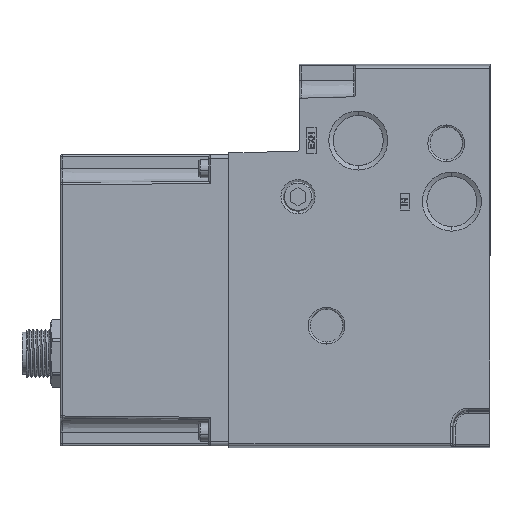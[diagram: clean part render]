
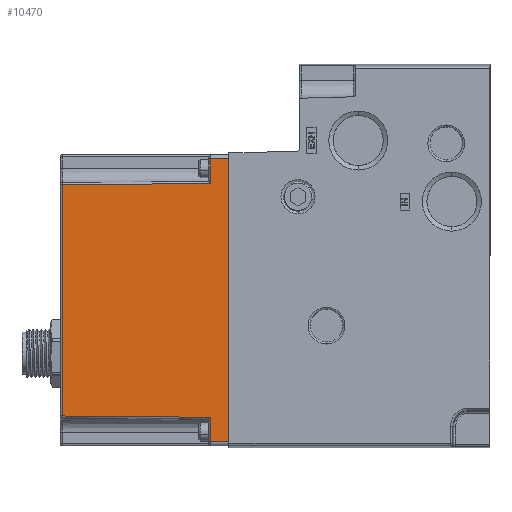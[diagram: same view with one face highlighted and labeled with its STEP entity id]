
A CAD part, left-side view. The second image highlights one B-rep face of the part: STEP entity #10470.
In plain terms, the highlighted planar face has unit normal (-1, 0, 0) as drawn and (0, 0, -1) by its records, which use the part's own axes.
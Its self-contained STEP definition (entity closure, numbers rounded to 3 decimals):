
#319 = EDGE_CURVE ( 'NONE', #31420, #16234, #65532, .T. ) ;
#3397 = ORIENTED_EDGE ( 'NONE', *, *, #3809, .T. ) ;
#3602 = VECTOR ( 'NONE', #27885, 1000. ) ;
#3628 = CARTESIAN_POINT ( 'NONE',  ( -36.25, 4.5, -13.4 ) ) ;
#3809 = EDGE_CURVE ( 'NONE', #16234, #94322, #63112, .T. ) ;
#7763 = LINE ( 'NONE', #87997, #115946 ) ;
#9327 = DIRECTION ( 'NONE',  ( 0., 0., 1. ) ) ;
#10470 = ADVANCED_FACE ( 'NONE', ( #122475 ), #40123, .F. ) ;
#12066 = ORIENTED_EDGE ( 'NONE', *, *, #77233, .T. ) ;
#12529 = CARTESIAN_POINT ( 'NONE',  ( 35.25, 4.5, -13.4 ) ) ;
#15159 = CARTESIAN_POINT ( 'NONE',  ( -36.25, 4.5, -13.4 ) ) ;
#16234 = VERTEX_POINT ( 'NONE', #101807 ) ;
#18510 = VECTOR ( 'NONE', #25587, 1000. ) ;
#20069 = EDGE_CURVE ( 'NONE', #27380, #91849, #108505, .T. ) ;
#21385 = CARTESIAN_POINT ( 'NONE',  ( -36.25, 41.5, -13.4 ) ) ;
#22867 = DIRECTION ( 'NONE',  ( 1., 0., 0. ) ) ;
#25587 = DIRECTION ( 'NONE',  ( 0., -1., 0. ) ) ;
#26158 = ORIENTED_EDGE ( 'NONE', *, *, #45934, .T. ) ;
#27380 = VERTEX_POINT ( 'NONE', #134320 ) ;
#27391 = EDGE_CURVE ( 'NONE', #84670, #31420, #7763, .T. ) ;
#27885 = DIRECTION ( 'NONE',  ( 1., 0., 0. ) ) ;
#31420 = VERTEX_POINT ( 'NONE', #111915 ) ;
#31798 = VECTOR ( 'NONE', #114804, 1000. ) ;
#39945 = ORIENTED_EDGE ( 'NONE', *, *, #20069, .T. ) ;
#40123 = PLANE ( 'NONE',  #128233 ) ;
#43866 = LINE ( 'NONE', #21385, #103175 ) ;
#44611 = VECTOR ( 'NONE', #108052, 1000. ) ;
#45934 = EDGE_CURVE ( 'NONE', #89708, #48968, #43866, .T. ) ;
#46775 = CARTESIAN_POINT ( 'NONE',  ( -36.25, 42., -13.4 ) ) ;
#47688 = VECTOR ( 'NONE', #97302, 1000. ) ;
#48968 = VERTEX_POINT ( 'NONE', #78915 ) ;
#51876 = EDGE_LOOP ( 'NONE', ( #12066, #39945, #122427, #56601, #129770, #3397, #128896, #26158 ) ) ;
#56601 = ORIENTED_EDGE ( 'NONE', *, *, #27391, .T. ) ;
#63112 = LINE ( 'NONE', #15159, #3602 ) ;
#65532 = LINE ( 'NONE', #133612, #96964 ) ;
#66655 = CARTESIAN_POINT ( 'NONE',  ( -29.104, 4.5, -13.4 ) ) ;
#71806 = CARTESIAN_POINT ( 'NONE',  ( 35.25, 0., -13.4 ) ) ;
#77233 = EDGE_CURVE ( 'NONE', #48968, #27380, #90114, .T. ) ;
#78915 = CARTESIAN_POINT ( 'NONE',  ( 28.781, 41.5, -13.4 ) ) ;
#81833 = LINE ( 'NONE', #138673, #18510 ) ;
#84670 = VERTEX_POINT ( 'NONE', #71806 ) ;
#87997 = CARTESIAN_POINT ( 'NONE',  ( -36.25, 0., -13.4 ) ) ;
#89708 = VERTEX_POINT ( 'NONE', #133136 ) ;
#90114 = LINE ( 'NONE', #125261, #31798 ) ;
#91849 = VERTEX_POINT ( 'NONE', #12529 ) ;
#94322 = VERTEX_POINT ( 'NONE', #66655 ) ;
#96964 = VECTOR ( 'NONE', #147749, 1000. ) ;
#97302 = DIRECTION ( 'NONE',  ( 1., 0., 0. ) ) ;
#101412 = DIRECTION ( 'NONE',  ( -1., 0., 0. ) ) ;
#101807 = CARTESIAN_POINT ( 'NONE',  ( -35.25, 4.5, -13.4 ) ) ;
#103175 = VECTOR ( 'NONE', #22867, 1000. ) ;
#105183 = EDGE_CURVE ( 'NONE', #94322, #89708, #132680, .T. ) ;
#108052 = DIRECTION ( 'NONE',  ( 0.009, 1., 0. ) ) ;
#108505 = LINE ( 'NONE', #3628, #47688 ) ;
#111915 = CARTESIAN_POINT ( 'NONE',  ( -35.25, 0., -13.4 ) ) ;
#114804 = DIRECTION ( 'NONE',  ( 0.009, -1., 0. ) ) ;
#115946 = VECTOR ( 'NONE', #101412, 1000. ) ;
#118758 = EDGE_CURVE ( 'NONE', #91849, #84670, #81833, .T. ) ;
#122427 = ORIENTED_EDGE ( 'NONE', *, *, #118758, .T. ) ;
#122475 = FACE_OUTER_BOUND ( 'NONE', #51876, .T. ) ;
#125261 = CARTESIAN_POINT ( 'NONE',  ( 28.772, 42.567, -13.4 ) ) ;
#128233 = AXIS2_PLACEMENT_3D ( 'NONE', #46775, #9327, #136633 ) ;
#128896 = ORIENTED_EDGE ( 'NONE', *, *, #105183, .T. ) ;
#129770 = ORIENTED_EDGE ( 'NONE', *, *, #319, .T. ) ;
#132680 = LINE ( 'NONE', #133428, #44611 ) ;
#133136 = CARTESIAN_POINT ( 'NONE',  ( -28.781, 41.5, -13.4 ) ) ;
#133428 = CARTESIAN_POINT ( 'NONE',  ( -28.778, 41.935, -13.4 ) ) ;
#133612 = CARTESIAN_POINT ( 'NONE',  ( -35.25, 42., -13.4 ) ) ;
#134320 = CARTESIAN_POINT ( 'NONE',  ( 29.104, 4.5, -13.4 ) ) ;
#136633 = DIRECTION ( 'NONE',  ( 1., 0., 0. ) ) ;
#138673 = CARTESIAN_POINT ( 'NONE',  ( 35.25, 42., -13.4 ) ) ;
#147749 = DIRECTION ( 'NONE',  ( 0., 1., 0. ) ) ;
